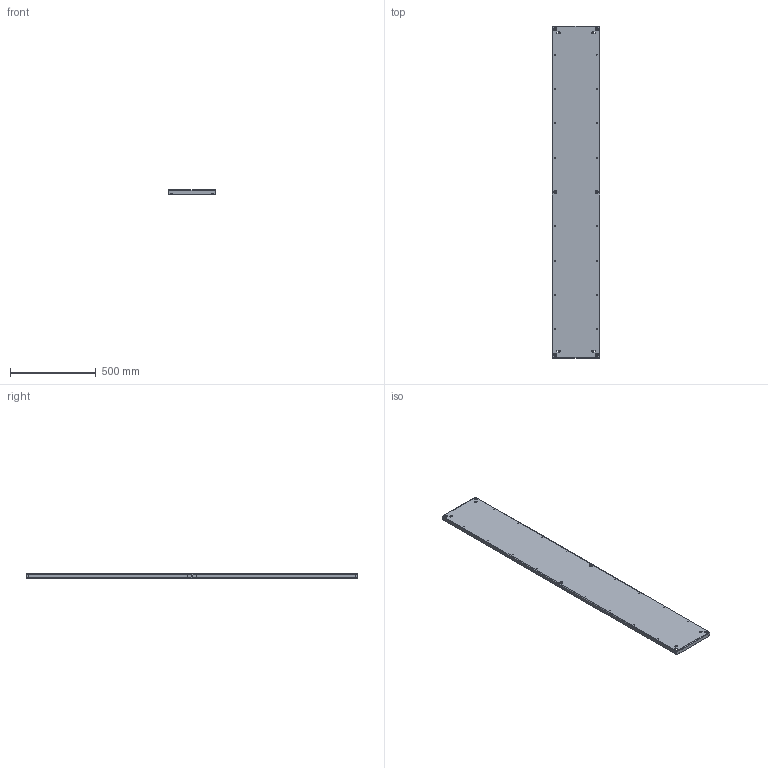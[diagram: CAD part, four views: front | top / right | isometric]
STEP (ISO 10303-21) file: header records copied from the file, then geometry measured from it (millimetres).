
FILE_DESCRIPTION(('STEP AP203'), '1');
FILE_NAME('Ïàíåëü ìîíòàæíàÿ óñèëåííàÿ Â2000õØ400 ìì OptiBox M 419715 ÊÝÀÇ', '', ('UNSPECIFIED'), ('UNSPECIFIED'), 'C3D Converter', 'C3D Toolkit', '');
FILE_SCHEMA(('CONFIG_CONTROL_DESIGN'));
Length unit declared in the file: millimetre
Bounding box: 278 x 1933 x 24.6 mm (x, y, z)
Volume: 2104670.7 mm3; surface area: 1420781.2 mm2
Topology: 1 solids, 1 shells, 112 faces, 282 edges, 172 vertices
Faces by surface type: cylinder 58, plane 46, bspline 8
Full cylindrical faces by diameter (mm): 5 x28, 7.3 x2, 9 x6, 18 x6
Entity records: 4732 total; most frequent: CARTESIAN_POINT 1985, DIRECTION 530, ORIENTED_EDGE 480, EDGE_LOOP 246, EDGE_CURVE 240, AXIS2_PLACEMENT_3D 205, VERTEX_POINT 172, FACE_BOUND 162
